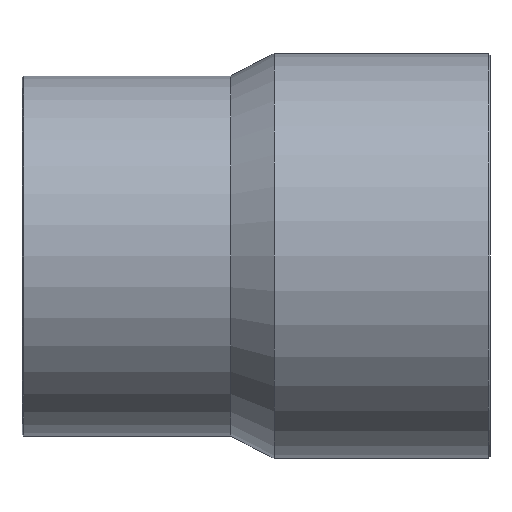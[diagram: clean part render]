
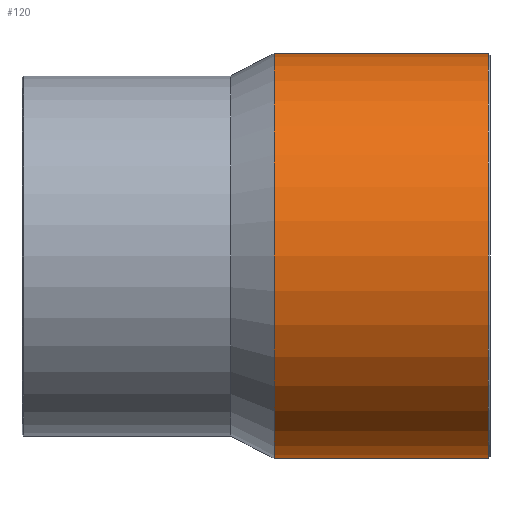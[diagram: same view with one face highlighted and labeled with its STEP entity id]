
A CAD part, front view. The second image highlights one B-rep face of the part: STEP entity #120.
In plain terms, the highlighted cylindrical face has radius 112.5 mm (diameter 225 mm), a full revolution.
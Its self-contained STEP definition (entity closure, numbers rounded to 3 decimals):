
#26=ORIENTED_EDGE('',*,*,#46,.T.);
#27=ORIENTED_EDGE('',*,*,#47,.F.);
#46=EDGE_CURVE('',#56,#56,#66,.T.);
#47=EDGE_CURVE('',#57,#57,#67,.T.);
#56=VERTEX_POINT('',#208);
#57=VERTEX_POINT('',#210);
#66=CIRCLE('',#144,112.5);
#67=CIRCLE('',#145,112.5);
#76=EDGE_LOOP('',(#26));
#77=EDGE_LOOP('',(#27));
#96=FACE_BOUND('',#76,.T.);
#97=FACE_BOUND('',#77,.T.);
#116=CYLINDRICAL_SURFACE('',#143,112.5);
#120=ADVANCED_FACE('',(#96,#97),#116,.T.);
#143=AXIS2_PLACEMENT_3D('',#206,#165,#166);
#144=AXIS2_PLACEMENT_3D('',#207,#167,#168);
#145=AXIS2_PLACEMENT_3D('',#209,#169,#170);
#165=DIRECTION('',(-1.,0.,0.));
#166=DIRECTION('',(0.,0.,1.));
#167=DIRECTION('',(-1.,0.,0.));
#168=DIRECTION('',(0.,0.,1.));
#169=DIRECTION('',(-1.,0.,0.));
#170=DIRECTION('',(0.,0.,1.));
#206=CARTESIAN_POINT('',(-60.,0.,0.));
#207=CARTESIAN_POINT('',(131.,0.,0.));
#208=CARTESIAN_POINT('',(131.,0.,112.5));
#209=CARTESIAN_POINT('',(12.,0.,0.));
#210=CARTESIAN_POINT('',(12.,0.,112.5));
